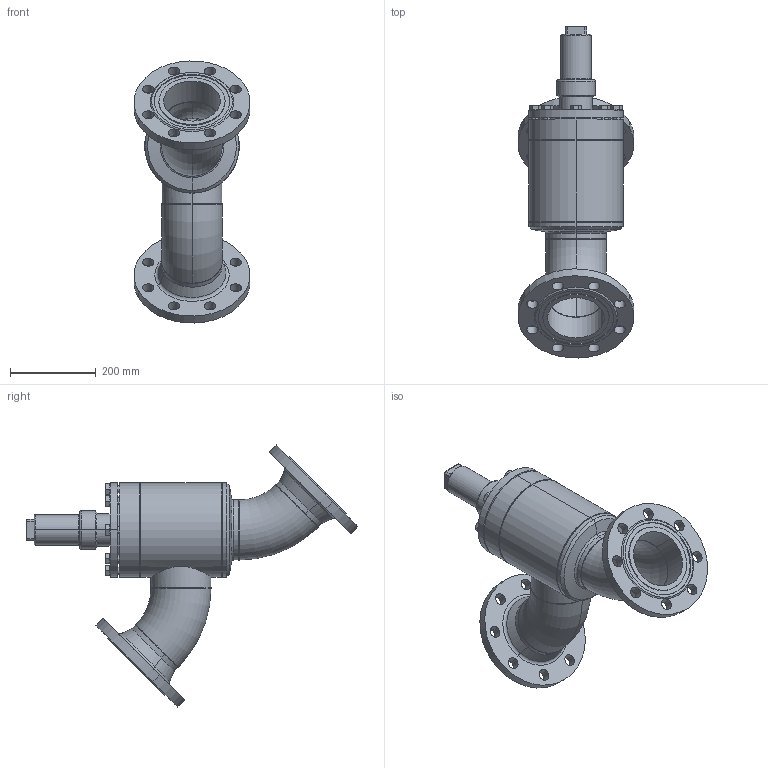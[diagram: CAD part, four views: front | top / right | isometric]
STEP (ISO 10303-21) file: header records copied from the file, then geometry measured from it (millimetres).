
FILE_DESCRIPTION (( 'STEP AP214' ), '1' );
FILE_NAME ('RVAK27320D20-DN125_DIN-FL-N_PS40.STEP', '2006-04-27T14:00:00', ( 'Herr Grams' ), ( 'AWP GmbH' ), 'SwSTEP 2.0', 'SolidWorks 2002296', '' );
FILE_SCHEMA (( 'AUTOMOTIVE_DESIGN' ));
Length unit declared in the file: millimetre
Products named in the file (19): RVAK27320D20-DN125_DIN-FL-N_PS40; Gehäuse-kpl16320-DN125_DIN_PS40_Standard; Gehäuse-kpl16300-DN125_R1_Standard; Gehäuse16300-DN125_Standard; Kopfstück16300-DN125_Standard; Rohrstutzen-A16300-DN125_R1_Standard; Boden16300-DN125_Standard; bead-DN125-1_Standard; bead-DN125-2_Standard; bead-DN125-3_Standard; bead-DN125-4_Standard; Rohrbogen 45°_Rohrbogen-DN125-45°; Flansch-DIN-Nut_PS40_DIN-Flansch-DN125_PS40-Nut; bead-DN125-6_Standard; bead-DN125-7_Standard; RVA29300E20_Deck-Schr-DN125_Standard; Deckel29300E20-DN125_Standard; Sechskantschraube-DIN933_M16x 45; Kappe16402_DN125-150_Standard
Assembly tree (27 placements, depth 4):
  RVAK27320D20-DN125_DIN-FL-N_PS40
    Gehäuse-kpl16320-DN125_DIN_PS40_Standard
      Flansch-DIN-Nut_PS40_DIN-Flansch-DN125_PS40-Nut  x2
      Gehäuse-kpl16300-DN125_R1_Standard
        bead-DN125-2_Standard
        Gehäuse16300-DN125_Standard
        Kopfstück16300-DN125_Standard
        bead-DN125-1_Standard
        bead-DN125-3_Standard
        Rohrbogen 45°_Rohrbogen-DN125-45°  x2
        Rohrstutzen-A16300-DN125_R1_Standard
        bead-DN125-4_Standard
        Boden16300-DN125_Standard
      bead-DN125-7_Standard
      bead-DN125-6_Standard
    RVA29300E20_Deck-Schr-DN125_Standard
      Sechskantschraube-DIN933_M16x 45  x8
      Deckel29300E20-DN125_Standard
    Kappe16402_DN125-150_Standard
Bounding box: 269.74 x 772.39 x 609.58 mm (x, y, z)
Volume: 8232844.5 mm3; surface area: 1399230.6 mm2
Topology: 24 solids, 24 shells, 455 faces, 1008 edges, 610 vertices
Faces by surface type: cylinder 141, cone 134, plane 132, torus 24, bspline 24
Entity records: 10976 total; most frequent: CARTESIAN_POINT 4725, DIRECTION 1168, ORIENTED_EDGE 1056, EDGE_CURVE 528, AXIS2_PLACEMENT_3D 513, VERTEX_POINT 328, EDGE_LOOP 300, CIRCLE 268
